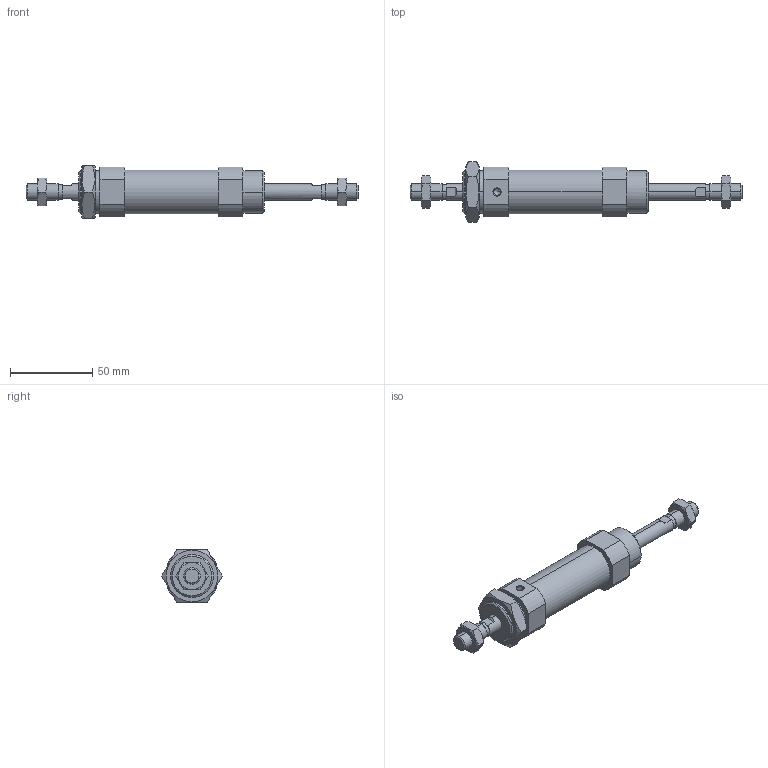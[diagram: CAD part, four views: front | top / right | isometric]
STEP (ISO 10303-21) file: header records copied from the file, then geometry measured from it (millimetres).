
FILE_DESCRIPTION (( 'STEP AP203' ), '1' );
FILE_NAME ('CSM2B25-25-P.STEP', '2020-07-20T16:42:15', ( '' ), ( '' ), 'SwSTEP 2.0', 'SolidWorks 2019', '' );
FILE_SCHEMA (( 'CONFIG_CONTROL_DESIGN' ));
Length unit declared in the file: millimetre
Products named in the file (1): CSM2B25-25-P
Bounding box: 202 x 36.95 x 32 mm (x, y, z)
Volume: 70569.3 mm3; surface area: 29556.6 mm2
Topology: 5 solids, 5 shells, 152 faces, 356 edges, 223 vertices
Faces by surface type: plane 62, cylinder 46, cone 44
Entity records: 5355 total; most frequent: CARTESIAN_POINT 1796, DIRECTION 738, ORIENTED_EDGE 708, EDGE_CURVE 354, AXIS2_PLACEMENT_3D 291, VERTEX_POINT 223, EDGE_LOOP 175, VECTOR 156
